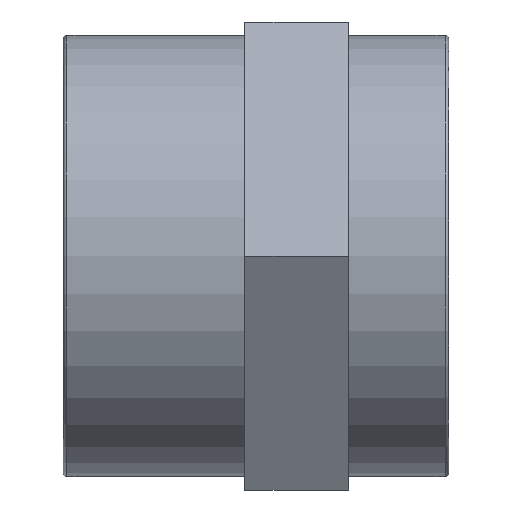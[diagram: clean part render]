
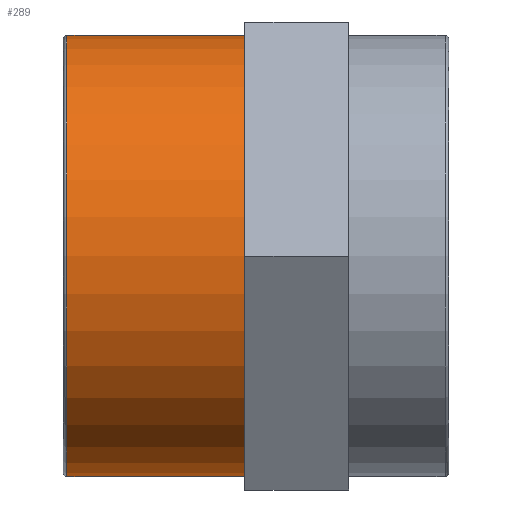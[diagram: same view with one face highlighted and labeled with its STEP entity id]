
A CAD part, top view. The second image highlights one B-rep face of the part: STEP entity #289.
In plain terms, the highlighted cylindrical face has radius 50.956 mm (diameter 101.911 mm), a full revolution.
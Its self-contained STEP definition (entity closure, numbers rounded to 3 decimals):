
#54=CYLINDRICAL_SURFACE('',#323,50.956);
#77=FACE_BOUND('',#123,.T.);
#92=FACE_OUTER_BOUND('',#122,.T.);
#122=EDGE_LOOP('',(#230));
#123=EDGE_LOOP('',(#231));
#150=CIRCLE('',#322,50.956);
#151=CIRCLE('',#324,50.956);
#164=VERTEX_POINT('',#458);
#165=VERTEX_POINT('',#461);
#190=EDGE_CURVE('',#164,#164,#150,.T.);
#191=EDGE_CURVE('',#165,#165,#151,.T.);
#230=ORIENTED_EDGE('',*,*,#191,.T.);
#231=ORIENTED_EDGE('',*,*,#190,.F.);
#289=ADVANCED_FACE('',(#92,#77),#54,.T.);
#322=AXIS2_PLACEMENT_3D('',#459,#378,#379);
#323=AXIS2_PLACEMENT_3D('',#460,#380,#381);
#324=AXIS2_PLACEMENT_3D('',#462,#382,#383);
#378=DIRECTION('center_axis',(-1.,0.,0.));
#379=DIRECTION('ref_axis',(0.,1.,0.));
#380=DIRECTION('center_axis',(-1.,0.,0.));
#381=DIRECTION('ref_axis',(0.,-1.,0.));
#382=DIRECTION('center_axis',(-1.,0.,0.));
#383=DIRECTION('ref_axis',(0.,0.,1.));
#458=CARTESIAN_POINT('',(-43.651,-50.956,0.));
#459=CARTESIAN_POINT('Origin',(-43.651,0.,0.));
#460=CARTESIAN_POINT('Origin',(-23.55,0.,0.));
#461=CARTESIAN_POINT('',(-2.6,-50.956,0.));
#462=CARTESIAN_POINT('Origin',(-2.6,0.,0.));
